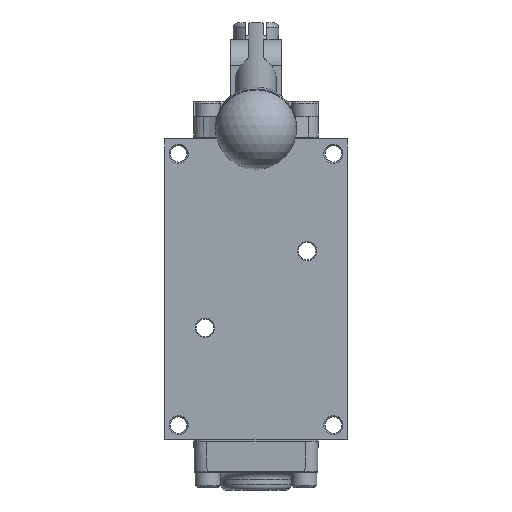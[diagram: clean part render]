
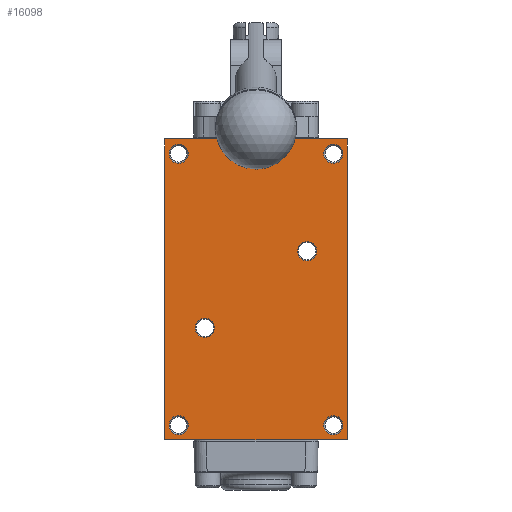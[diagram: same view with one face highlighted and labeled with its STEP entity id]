
A CAD part, front view. The second image highlights one B-rep face of the part: STEP entity #16098.
In plain terms, the highlighted planar face has unit normal (0, -1, 0).
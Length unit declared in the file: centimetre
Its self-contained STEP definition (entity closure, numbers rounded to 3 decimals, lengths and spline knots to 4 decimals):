
#493=LINE('',#23689,#1510);
#503=LINE('',#23729,#1520);
#509=LINE('',#23753,#1526);
#510=LINE('',#23754,#1527);
#1510=VECTOR('',#19261,5.715);
#1520=VECTOR('',#19293,5.715);
#1526=VECTOR('',#19315,9.4209);
#1527=VECTOR('',#19316,9.4209);
#2671=PLANE('',#17269);
#3407=FACE_BOUND('',#4905,.T.);
#3408=FACE_BOUND('',#4906,.T.);
#3409=FACE_BOUND('',#4907,.T.);
#3410=FACE_BOUND('',#4908,.T.);
#3411=FACE_BOUND('',#4909,.T.);
#3412=FACE_BOUND('',#4910,.T.);
#3781=FACE_OUTER_BOUND('',#4904,.T.);
#4904=EDGE_LOOP('',(#10760,#10761,#10762,#10763));
#4905=EDGE_LOOP('',(#10764));
#4906=EDGE_LOOP('',(#10765));
#4907=EDGE_LOOP('',(#10766));
#4908=EDGE_LOOP('',(#10767));
#4909=EDGE_LOOP('',(#10768));
#4910=EDGE_LOOP('',(#10769));
#6169=CIRCLE('',#17268,0.2977);
#6170=CIRCLE('',#17270,0.2977);
#6171=CIRCLE('',#17271,0.2977);
#6172=CIRCLE('',#17272,0.2977);
#6173=CIRCLE('',#17273,0.2977);
#6174=CIRCLE('',#17274,0.2977);
#6931=VERTEX_POINT('',#23686);
#6932=VERTEX_POINT('',#23688);
#6950=VERTEX_POINT('',#23726);
#6951=VERTEX_POINT('',#23728);
#6961=VERTEX_POINT('',#23750);
#6962=VERTEX_POINT('',#23755);
#6963=VERTEX_POINT('',#23757);
#6964=VERTEX_POINT('',#23759);
#6965=VERTEX_POINT('',#23761);
#6966=VERTEX_POINT('',#23763);
#8422=EDGE_CURVE('',#6931,#6932,#493,.T.);
#8441=EDGE_CURVE('',#6950,#6951,#503,.T.);
#8452=EDGE_CURVE('',#6961,#6961,#6169,.T.);
#8453=EDGE_CURVE('',#6932,#6950,#509,.T.);
#8454=EDGE_CURVE('',#6951,#6931,#510,.T.);
#8455=EDGE_CURVE('',#6962,#6962,#6170,.T.);
#8456=EDGE_CURVE('',#6963,#6963,#6171,.T.);
#8457=EDGE_CURVE('',#6964,#6964,#6172,.T.);
#8458=EDGE_CURVE('',#6965,#6965,#6173,.T.);
#8459=EDGE_CURVE('',#6966,#6966,#6174,.T.);
#10760=ORIENTED_EDGE('',*,*,#8441,.F.);
#10761=ORIENTED_EDGE('',*,*,#8453,.F.);
#10762=ORIENTED_EDGE('',*,*,#8422,.F.);
#10763=ORIENTED_EDGE('',*,*,#8454,.F.);
#10764=ORIENTED_EDGE('',*,*,#8455,.F.);
#10765=ORIENTED_EDGE('',*,*,#8456,.T.);
#10766=ORIENTED_EDGE('',*,*,#8457,.T.);
#10767=ORIENTED_EDGE('',*,*,#8458,.T.);
#10768=ORIENTED_EDGE('',*,*,#8459,.T.);
#10769=ORIENTED_EDGE('',*,*,#8452,.F.);
#16098=ADVANCED_FACE('',(#3781,#3407,#3408,#3409,#3410,#3411,#3412),#2671,
 .F.);
#17268=AXIS2_PLACEMENT_3D('',#23751,#19311,#19312);
#17269=AXIS2_PLACEMENT_3D('',#23752,#19313,#19314);
#17270=AXIS2_PLACEMENT_3D('',#23756,#19317,#19318);
#17271=AXIS2_PLACEMENT_3D('',#23758,#19319,#19320);
#17272=AXIS2_PLACEMENT_3D('',#23760,#19321,#19322);
#17273=AXIS2_PLACEMENT_3D('',#23762,#19323,#19324);
#17274=AXIS2_PLACEMENT_3D('',#23764,#19325,#19326);
#19261=DIRECTION('',(1.,0.,0.));
#19293=DIRECTION('',(-1.,0.,0.));
#19311=DIRECTION('center_axis',(0.,-1.,0.));
#19312=DIRECTION('ref_axis',(-1.,0.,0.));
#19313=DIRECTION('center_axis',(0.,1.,0.));
#19314=DIRECTION('ref_axis',(0.,0.,1.));
#19315=DIRECTION('',(0.,0.,-1.));
#19316=DIRECTION('',(0.,0.,1.));
#19317=DIRECTION('center_axis',(0.,-1.,0.));
#19318=DIRECTION('ref_axis',(-1.,0.,0.));
#19319=DIRECTION('center_axis',(0.,1.,0.));
#19320=DIRECTION('ref_axis',(1.,0.,0.));
#19321=DIRECTION('center_axis',(0.,1.,0.));
#19322=DIRECTION('ref_axis',(1.,0.,0.));
#19323=DIRECTION('center_axis',(0.,1.,0.));
#19324=DIRECTION('ref_axis',(1.,0.,0.));
#19325=DIRECTION('center_axis',(0.,1.,0.));
#19326=DIRECTION('ref_axis',(1.,0.,0.));
#23686=CARTESIAN_POINT('',(-2.8575,0.,4.7104));
#23688=CARTESIAN_POINT('',(2.8575,0.,4.7104));
#23689=CARTESIAN_POINT('',(-2.8575,0.,4.7104));
#23726=CARTESIAN_POINT('',(2.8575,0.,-4.7104));
#23728=CARTESIAN_POINT('',(-2.8575,0.,-4.7104));
#23729=CARTESIAN_POINT('',(2.8575,0.,-4.7104));
#23750=CARTESIAN_POINT('',(-1.3025,0.,-1.2027));
#23751=CARTESIAN_POINT('Origin',(-1.6002,0.,-1.2027));
#23752=CARTESIAN_POINT('Origin',(0.,0.,0.));
#23753=CARTESIAN_POINT('',(2.8575,0.,4.7104));
#23754=CARTESIAN_POINT('',(-2.8575,0.,-4.7104));
#23755=CARTESIAN_POINT('',(1.8979,0.,1.2002));
#23756=CARTESIAN_POINT('Origin',(1.6002,0.,1.2002));
#23757=CARTESIAN_POINT('',(2.7183,0.,-4.2482));
#23758=CARTESIAN_POINT('Origin',(2.4206,0.,-4.2482));
#23759=CARTESIAN_POINT('',(2.7183,0.,4.2456));
#23760=CARTESIAN_POINT('Origin',(2.4206,0.,4.2456));
#23761=CARTESIAN_POINT('',(-2.123,0.,-4.2482));
#23762=CARTESIAN_POINT('Origin',(-2.4206,0.,-4.2482));
#23763=CARTESIAN_POINT('',(-2.123,0.,4.2456));
#23764=CARTESIAN_POINT('Origin',(-2.4206,0.,4.2456));
